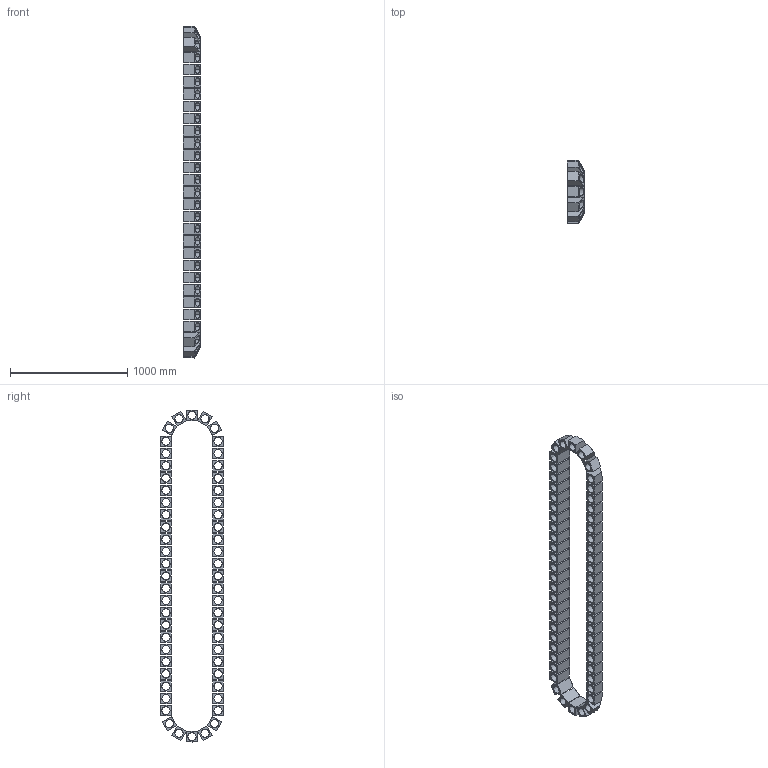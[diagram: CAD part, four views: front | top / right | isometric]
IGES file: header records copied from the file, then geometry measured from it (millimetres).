
Start section: START RECORD GO HERE.
Global section: file name: chaine-magasin.igs; native system: IBM CATIA IGES - CATIA Version 5 Release 10 ; preprocessor: CATIA Version 5 Release 10 ; date: 20030711.093643; units: millimetre
Bounding box: 145.36 x 534 x 2830 mm (x, y, z)
Surface area: 4380089.7 mm2 (no closed solid volume)
Topology: 0 solids, 0 shells, 452 faces, 2064 edges, 2064 vertices
Faces by surface type: plane 326, revolution 126
